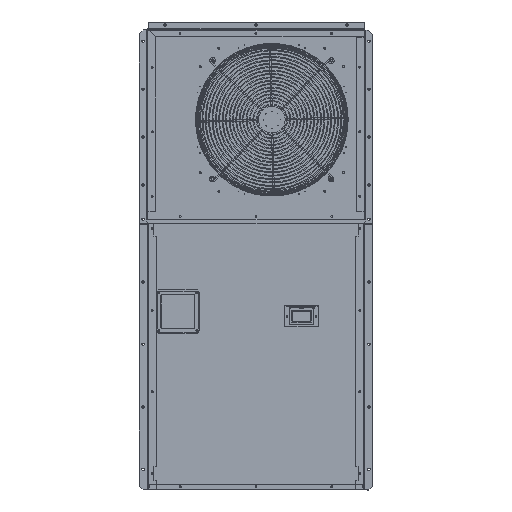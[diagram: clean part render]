
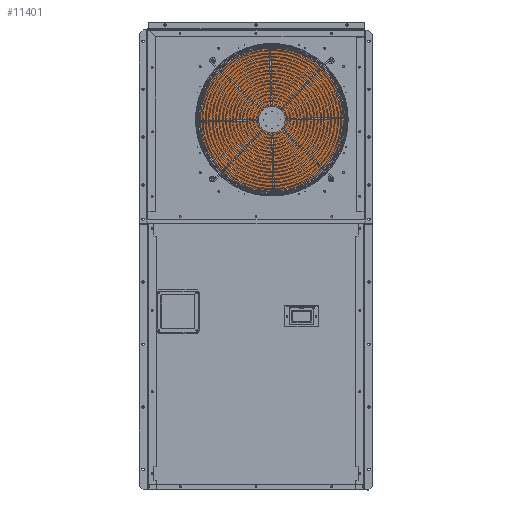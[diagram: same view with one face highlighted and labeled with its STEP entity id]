
A CAD part, top view. The second image highlights one B-rep face of the part: STEP entity #11401.
In plain terms, the highlighted planar face has unit normal (0, 0, 1).
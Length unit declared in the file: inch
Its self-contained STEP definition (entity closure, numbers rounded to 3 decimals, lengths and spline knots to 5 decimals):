
#6227 = ORIENTED_EDGE ( 'NONE', *, *, #9273, .F. ) ;
#6725 = DIRECTION ( 'NONE',  ( 1., 0., 0. ) ) ;
#9273 = EDGE_CURVE ( 'NONE', #106319, #60704, #32300, .T. ) ;
#9448 = EDGE_CURVE ( 'NONE', #76865, #106319, #48465, .T. ) ;
#10290 = CARTESIAN_POINT ( 'NONE',  ( 14.065, 60.68, 11.855 ) ) ;
#11093 = CARTESIAN_POINT ( 'NONE',  ( 14.065, 0.75, 11.855 ) ) ;
#11401 = ADVANCED_FACE ( 'NONE', ( #83914 ), #28309, .F. ) ;
#16419 = VECTOR ( 'NONE', #50179, 39.37008 ) ;
#28309 = PLANE ( 'NONE',  #34315 ) ;
#28887 = DIRECTION ( 'NONE',  ( -1., 0., 0. ) ) ;
#32300 = LINE ( 'NONE', #75321, #90535 ) ;
#34044 = LINE ( 'NONE', #61332, #92243 ) ;
#34315 = AXIS2_PLACEMENT_3D ( 'NONE', #10290, #46346, #28887 ) ;
#38090 = DIRECTION ( 'NONE',  ( 0., -1., 0. ) ) ;
#44031 = ORIENTED_EDGE ( 'NONE', *, *, #62562, .T. ) ;
#44629 = CARTESIAN_POINT ( 'NONE',  ( -14.065, 60.68, 11.855 ) ) ;
#46252 = LINE ( 'NONE', #55539, #78203 ) ;
#46346 = DIRECTION ( 'NONE',  ( 0., 0., -1. ) ) ;
#48465 = LINE ( 'NONE', #65890, #16419 ) ;
#49690 = ORIENTED_EDGE ( 'NONE', *, *, #57600, .T. ) ;
#50179 = DIRECTION ( 'NONE',  ( 1., 0., 0. ) ) ;
#53192 = EDGE_LOOP ( 'NONE', ( #49690, #6227, #63886, #44031 ) ) ;
#55539 = CARTESIAN_POINT ( 'NONE',  ( -14.065, 60.68, 11.855 ) ) ;
#56510 = CARTESIAN_POINT ( 'NONE',  ( -14.065, 0.75, 11.855 ) ) ;
#57600 = EDGE_CURVE ( 'NONE', #80301, #60704, #34044, .T. ) ;
#60704 = VERTEX_POINT ( 'NONE', #11093 ) ;
#61332 = CARTESIAN_POINT ( 'NONE',  ( 14.065, 0.75, 11.855 ) ) ;
#62562 = EDGE_CURVE ( 'NONE', #76865, #80301, #46252, .T. ) ;
#63886 = ORIENTED_EDGE ( 'NONE', *, *, #9448, .F. ) ;
#65890 = CARTESIAN_POINT ( 'NONE',  ( 14.065, 60.68, 11.855 ) ) ;
#75321 = CARTESIAN_POINT ( 'NONE',  ( 14.065, 60.68, 11.855 ) ) ;
#76865 = VERTEX_POINT ( 'NONE', #44629 ) ;
#78203 = VECTOR ( 'NONE', #38090, 39.37008 ) ;
#80301 = VERTEX_POINT ( 'NONE', #56510 ) ;
#83914 = FACE_OUTER_BOUND ( 'NONE', #53192, .T. ) ;
#90535 = VECTOR ( 'NONE', #103178, 39.37008 ) ;
#92243 = VECTOR ( 'NONE', #6725, 39.37008 ) ;
#103178 = DIRECTION ( 'NONE',  ( 0., -1., 0. ) ) ;
#106319 = VERTEX_POINT ( 'NONE', #108946 ) ;
#108946 = CARTESIAN_POINT ( 'NONE',  ( 14.065, 60.68, 11.855 ) ) ;
